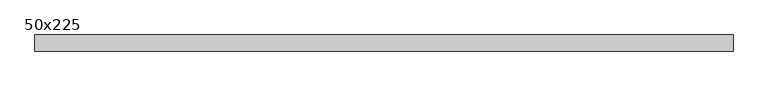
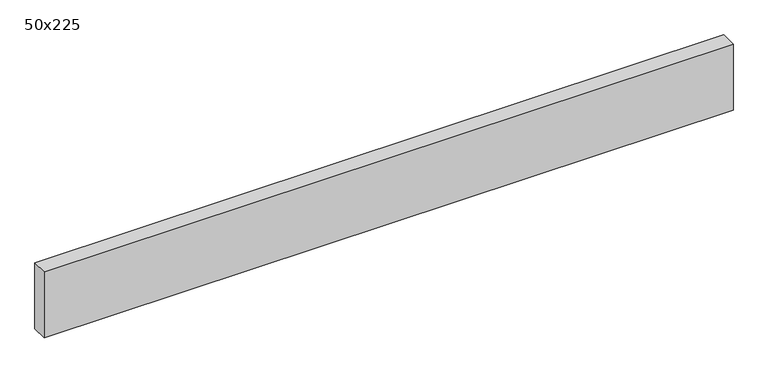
"""IFC4 building model written with IfcOpenShell, lengths in millimetres: beam geometry, Graded Timber : 50x225."""

from ifc_helpers import new_model, si_unit, frame, origin, place, context, project, spatial, polyline, outline, extrude, source, transform, mapped, element, save


def beam_50x225_e46d5477(model_context):
    return source(origin(), model_context, "Body", "SweptSolid", [
        extrude(outline(polyline([(1082.0, 25.0), (1082.0, -25.0), (-1082.0, -25.0), (-1082.0, 25.0), (1082.0, 25.0)])), frame((0.0, 0.0, -110.0), z_axis=(0.0, 0.0, 1.0), x_axis=(1.0, 0.0, 0.0)), (0.0, 0.0, 1.0), 220.0),
    ])


if __name__ == "__main__":
    model = new_model("IFC4")
    model_context = context("Model", 3, world=origin())
    ifc_project = project(units=[si_unit("LENGTHUNIT", "METRE", prefix="MILLI")], contexts=[model_context])
    site = spatial("IfcSite", under=ifc_project)
    building = spatial("IfcBuilding", under=site)
    placement = place(None, origin())
    beam_50x225_shape = beam_50x225_e46d5477(model_context)
    element("IfcBeam", 1, ObjectType="Graded Timber : 50x225", at=placement, inside=building, context=model_context, shape_type="MappedRepresentation", body=[
        mapped(beam_50x225_shape, transform((0.0, 0.0, 0.0), x_axis=(1.0, 0.0, 0.0), y_axis=(0.0, 1.0, 0.0), z_axis=(0.0, 0.0, 1.0))),
    ])
    save(model, "model.ifc")
